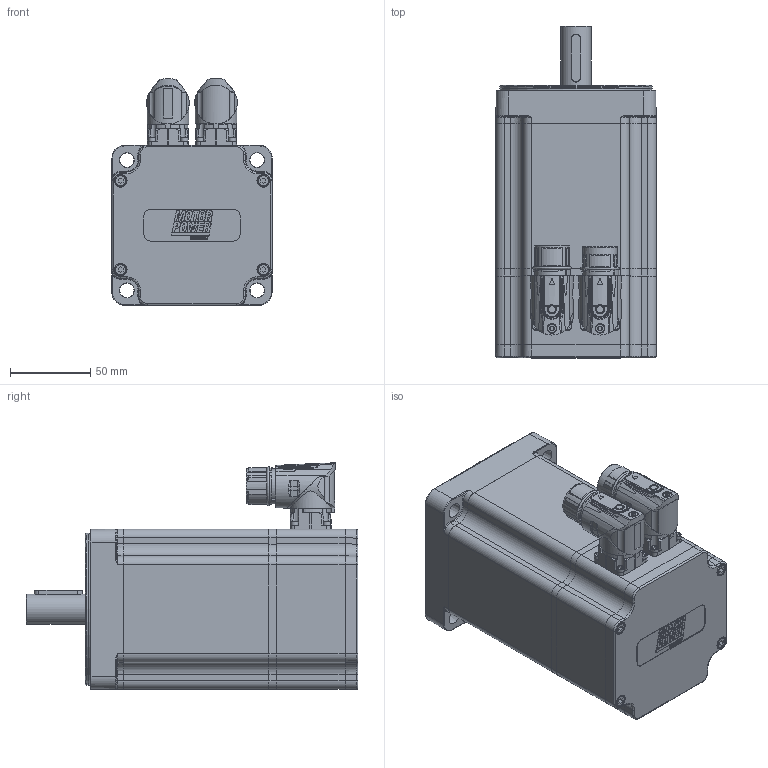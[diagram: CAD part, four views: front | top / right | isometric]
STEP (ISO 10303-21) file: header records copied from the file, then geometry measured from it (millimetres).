
FILE_DESCRIPTION(/* description */ ('Unknown'),/* implementation_level */ '2;1');
FILE_NAME(/* name */ 'TC4-100.4A.XX.X.3.M1.0.1.G2.31.80 Q0BQ10',/* time_stamp */ '2026-03-04T14:58:08+01:00',/* author */ ('Unknown'),/* organization */ ('Unknown'),/* preprocessor_version */ 'ST-DEVELOPER v19.4',/* originating_system */ 'Solid Edge',/* authorisation */ 'Unknown');
FILE_SCHEMA (('AUTOMOTIVE_DESIGN {1 0 10303 214 3 1 1}'));
Products named in the file (14): Q0BQ10 4A M1 VUOTO; 005911000185; 005113000500; 005119000312; 003103040221; 003155002223; 003151003168; 003107003287; 003003200460; 007117000454; 003251040721; 005911000208; 005911000180; 007117000456
Assembly tree (26 placements, depth 2):
  Q0BQ10 4A M1 VUOTO
    005911000185  x8
    005113000500
    005119000312
    003103040221
    003155002223
    003151003168
    003107003287
    003003200460
    007117000454
    003251040721
    005911000208  x4
    005911000180  x4
    007117000456
Bounding box: 100 x 207 x 141.5 mm (x, y, z)
Volume: 651442.6 mm3; surface area: 252688.1 mm2
Topology: 28 solids, 28 shells, 2242 faces, 5620 edges, 3591 vertices
Faces by surface type: plane 974, cylinder 537, cone 278, bspline 271, torus 109, sphere 73
Full cylindrical faces by diameter (mm): 0.5 x1, 1 x21, 1.2 x17, 1.4 x4, 2 x4, 2.013 x12, 2.459 x2, 2.5 x8, 2.8 x4, 3 x12, 3.2 x1, 3.242 x32, 3.3 x1, 4 x9, 4.5 x22, 4.7 x8, 4.917 x1, 5.5 x2, 5.8 x1, 5.9 x2, 6 x1, 6.4 x1, 6.8 x1, 7 x8, 8 x4, 8.004 x4, 10 x1, 15.2 x1, 16.99 x1, 17 x1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
Entity records: 79997 total; most frequent: CARTESIAN_POINT 21155, ORIENTED_EDGE 9284, DIRECTION 8771, EDGE_CURVE 4642, AXIS2_PLACEMENT_3D 3378, VERTEX_POINT 3206, FACE_BOUND 2718, EDGE_LOOP 2693
